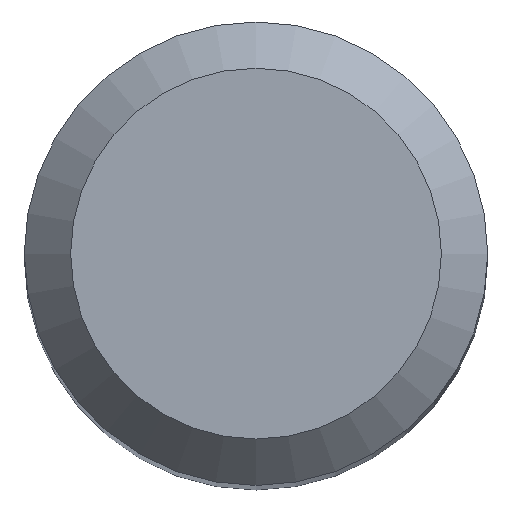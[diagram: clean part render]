
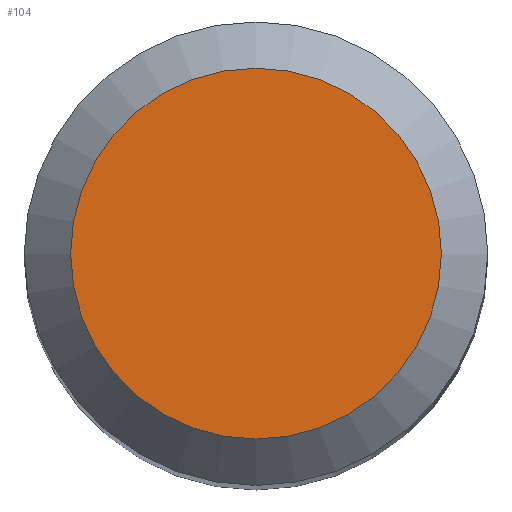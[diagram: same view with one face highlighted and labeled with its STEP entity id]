
A CAD part, top view. The second image highlights one B-rep face of the part: STEP entity #104.
In plain terms, the highlighted planar face has unit normal (0, 0, 1).
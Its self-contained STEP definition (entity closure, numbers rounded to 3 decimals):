
#88=CARTESIAN_POINT('',(3.2,0.0,130.0));
#89=DIRECTION('',(0.0,0.0,1.0));
#90=DIRECTION('',(1.0,0.0,0.0));
#91=AXIS2_PLACEMENT_3D('',#88,#89,#90);
#92=PLANE('',#91);
#93=CARTESIAN_POINT('',(-3.2,0.0,130.0));
#94=VERTEX_POINT('',#93);
#95=CARTESIAN_POINT('',(0.0,0.0,130.0));
#96=DIRECTION('',(0.0,0.0,-1.0));
#97=DIRECTION('',(-1.0,0.0,0.0));
#98=AXIS2_PLACEMENT_3D('',#95,#96,#97);
#99=CIRCLE('',#98,3.2);
#100=EDGE_CURVE('',#94,#94,#99,.T.);
#101=ORIENTED_EDGE('',*,*,#100,.F.);
#102=EDGE_LOOP('',(#101));
#103=FACE_OUTER_BOUND('',#102,.T.);
#104=ADVANCED_FACE('',(#103),#92,.T.);
